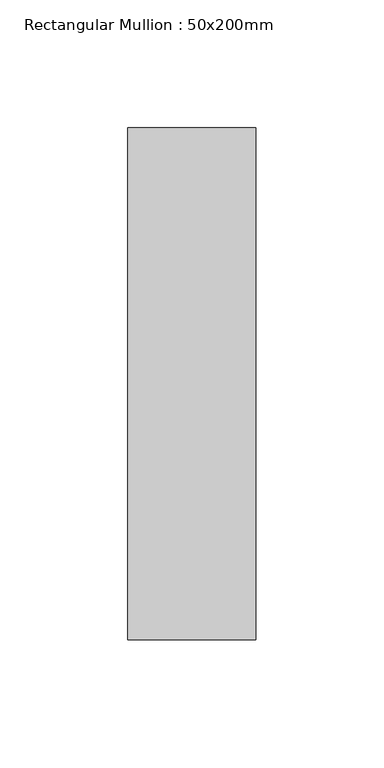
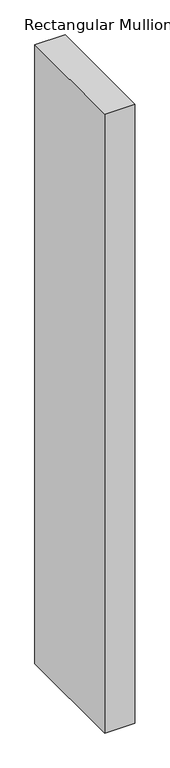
"""IFC4 building model written with IfcOpenShell, lengths in millimetres: member geometry, Rectangular Mullion : 50x200mm."""

from ifc_helpers import new_model, si_unit, frame, origin, place, context, project, spatial, polyline, outline, extrude, source, transform, mapped, element, save


def rectangular_mullion_50x200mm_5de6add5(model_context):
    return source(origin(), model_context, "Body", "SweptSolid", [
        extrude(outline(polyline([(25.0, 100.0), (25.0, -100.0), (-25.0, -100.0), (-25.0, 100.0), (25.0, 100.0)])), frame((0.0, 0.0, -1085.0), z_axis=(0.0, 0.0, 1.0), x_axis=(1.0, 0.0, 0.0)), (0.0, 0.0, 1.0), 1085.0),
    ])


if __name__ == "__main__":
    model = new_model("IFC4")
    model_context = context("Model", 3, world=origin())
    ifc_project = project(units=[si_unit("LENGTHUNIT", "METRE", prefix="MILLI")], contexts=[model_context])
    site = spatial("IfcSite", under=ifc_project)
    building = spatial("IfcBuilding", under=site)
    placement = place(None, origin())
    rectangular_mullion_50x200mm_shape = rectangular_mullion_50x200mm_5de6add5(model_context)
    element("IfcMember", 1, ObjectType="Rectangular Mullion : 50x200mm", at=placement, inside=building, context=model_context, shape_type="MappedRepresentation", body=[
        mapped(rectangular_mullion_50x200mm_shape, transform((0.0, 0.0, 0.0), x_axis=(1.0, 0.0, 0.0), y_axis=(0.0, 1.0, 0.0), z_axis=(0.0, 0.0, 1.0))),
    ])
    save(model, "model.ifc")
